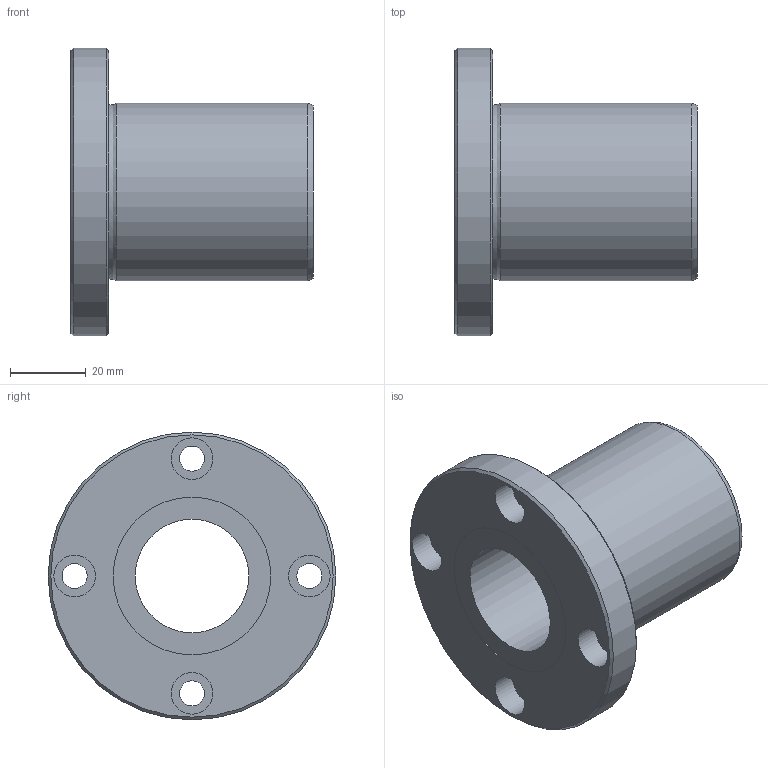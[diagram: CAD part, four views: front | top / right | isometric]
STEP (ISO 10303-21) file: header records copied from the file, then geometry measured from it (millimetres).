
FILE_DESCRIPTION((''),'2;1');
FILE_NAME('D:\製品 (図面)\カタログ用3D\リニアベアリング関連\STEP形式\LF\LF30.stp','2010-06-03T09:14:16',('Tsuchiya'),(''),'Autodesk Inventor 10','Autodesk Inventor 10','');
FILE_SCHEMA(('AUTOMOTIVE_DESIGN { 1 0 10303 214 1 1 1 1 }'));
Length unit declared in the file: millimetre
Products named in the file (1): LF30
Bounding box: 64 x 76 x 76 mm (x, y, z)
Volume: 90432.2 mm3; surface area: 24762.8 mm2
Topology: 1 solids, 1 shells, 26 faces, 47 edges, 30 vertices
Faces by surface type: cylinder 13, plane 9, cone 2, torus 1, bspline 1
Full cylindrical faces by diameter (mm): 6.6 x4, 11 x4, 30 x1, 41.7 x2, 47 x1, 76 x1
Entity records: 665 total; most frequent: CARTESIAN_POINT 149, DIRECTION 112, ORIENTED_EDGE 60, EDGE_LOOP 60, AXIS2_PLACEMENT_3D 56, FACE_BOUND 34, VERTEX_POINT 30, CIRCLE 30
